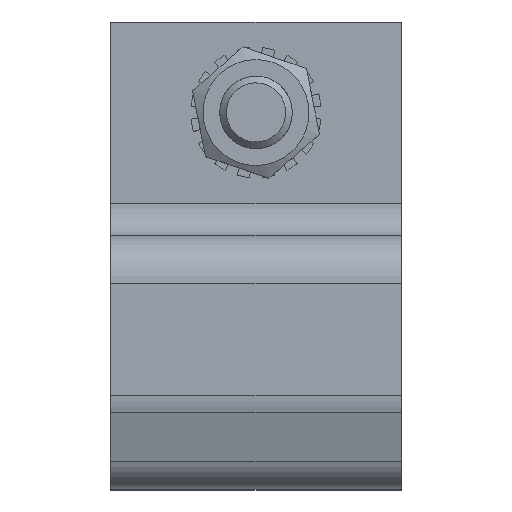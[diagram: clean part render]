
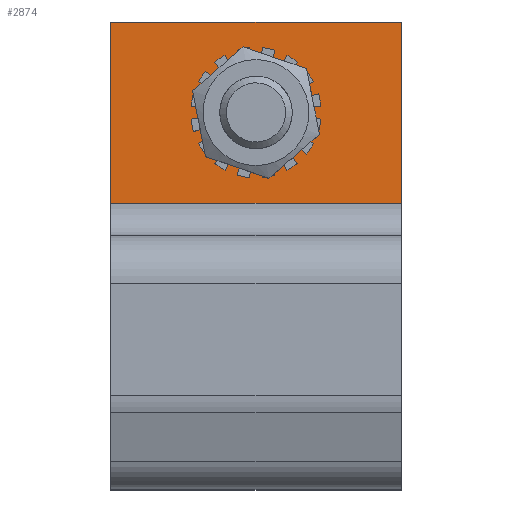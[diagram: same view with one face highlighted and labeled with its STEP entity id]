
A CAD part, top view. The second image highlights one B-rep face of the part: STEP entity #2874.
In plain terms, the highlighted planar face has unit normal (0, 0, 1) as drawn and (0, 0, -1) by its records, which use the part's own axes.
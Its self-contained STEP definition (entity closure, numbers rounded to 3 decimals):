
#85=FACE_BOUND('',#398,.T.);
#132=PLANE('',#3069);
#223=FACE_OUTER_BOUND('',#397,.T.);
#397=EDGE_LOOP('',(#2051,#2052,#2053,#2054));
#398=EDGE_LOOP('',(#2055));
#565=CIRCLE('',#3063,5.5);
#767=LINE('',#4434,#1005);
#768=LINE('',#4442,#1006);
#771=LINE('',#4448,#1009);
#774=LINE('',#4453,#1012);
#1005=VECTOR('',#3512,40.);
#1006=VECTOR('',#3521,25.);
#1009=VECTOR('',#3526,25.);
#1012=VECTOR('',#3531,40.);
#1226=VERTEX_POINT('',#4423);
#1227=VERTEX_POINT('',#4427);
#1228=VERTEX_POINT('',#4436);
#1230=VERTEX_POINT('',#4441);
#1232=VERTEX_POINT('',#4447);
#1538=EDGE_CURVE('',#1227,#1226,#767,.T.);
#1539=EDGE_CURVE('',#1228,#1228,#565,.T.);
#1541=EDGE_CURVE('',#1230,#1227,#768,.T.);
#1544=EDGE_CURVE('',#1226,#1232,#771,.T.);
#1547=EDGE_CURVE('',#1232,#1230,#774,.T.);
#2051=ORIENTED_EDGE('',*,*,#1541,.F.);
#2052=ORIENTED_EDGE('',*,*,#1547,.F.);
#2053=ORIENTED_EDGE('',*,*,#1544,.F.);
#2054=ORIENTED_EDGE('',*,*,#1538,.F.);
#2055=ORIENTED_EDGE('',*,*,#1539,.T.);
#2874=ADVANCED_FACE('',(#223,#85),#132,.F.);
#3063=AXIS2_PLACEMENT_3D('',#4437,#3515,#3516);
#3069=AXIS2_PLACEMENT_3D('',#4456,#3535,#3536);
#3512=DIRECTION('',(1.,0.,0.));
#3515=DIRECTION('center_axis',(0.,0.,1.));
#3516=DIRECTION('ref_axis',(-1.,0.,0.));
#3521=DIRECTION('',(0.,-1.,0.));
#3526=DIRECTION('',(0.,1.,0.));
#3531=DIRECTION('',(-1.,0.,0.));
#3535=DIRECTION('center_axis',(0.,0.,1.));
#3536=DIRECTION('ref_axis',(1.,0.,0.));
#4423=CARTESIAN_POINT('',(20.,-12.5,-3.));
#4427=CARTESIAN_POINT('',(-20.,-12.5,-3.));
#4434=CARTESIAN_POINT('',(20.,-12.5,-3.));
#4436=CARTESIAN_POINT('',(5.5,0.,-3.));
#4437=CARTESIAN_POINT('Origin',(0.,0.,-3.));
#4441=CARTESIAN_POINT('',(-20.,12.5,-3.));
#4442=CARTESIAN_POINT('',(-20.,-12.5,-3.));
#4447=CARTESIAN_POINT('',(20.,12.5,-3.));
#4448=CARTESIAN_POINT('',(20.,12.5,-3.));
#4453=CARTESIAN_POINT('',(-20.,12.5,-3.));
#4456=CARTESIAN_POINT('Origin',(0.,0.,
-3.));
